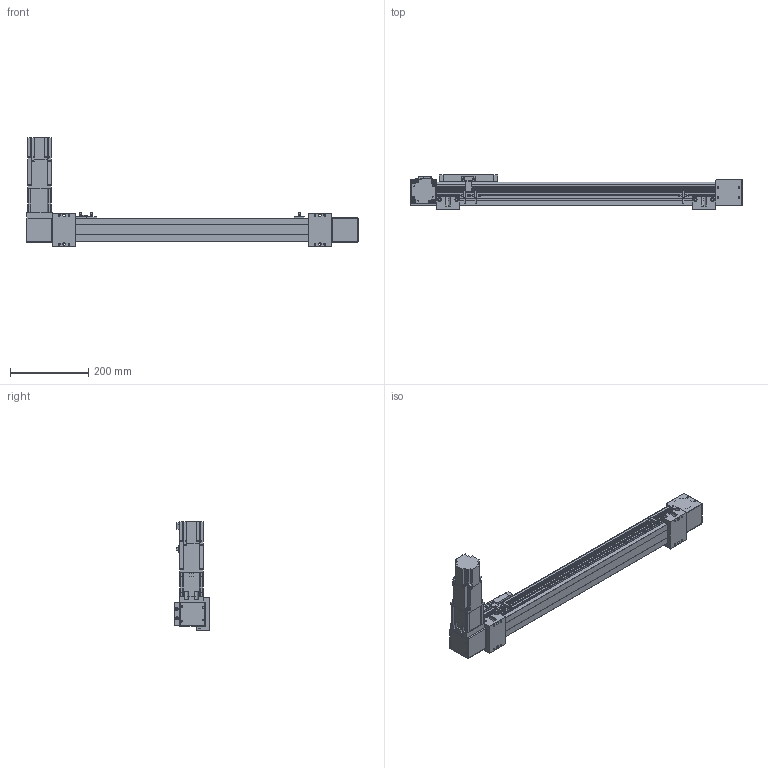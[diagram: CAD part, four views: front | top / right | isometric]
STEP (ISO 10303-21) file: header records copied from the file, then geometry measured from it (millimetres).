
FILE_DESCRIPTION(/* description */ ('STEP AP203'),/* implementation_level */ '2;1');
FILE_NAME(/* name */ 'SK60-P13-S550-BL-T40-C1-N(0)',/* time_stamp */ '2023-04-06T03:35:53+02:00',/* author */ ('License CC BY-ND 4.0'),/* organization */ ('CADENAS'),/* preprocessor_version */ 'ST-DEVELOPER v19.3',/* originating_system */ 'PARTsolutions',/* authorisation */ ' ');
FILE_SCHEMA (('CONFIG_CONTROL_DESIGN'));
Length unit declared in the file: millimetre
Products named in the file (11): SK60-P13-S550-BL-T40-C1-N(0); PSC140-sensor; SK60-S450_seat; SK60-S450-BL-C1_slider; SK60_body3; SK60_body6; SK60-BL_body2; T40-p1; SK60_body5; SK60_body4; SK60-S550-BL-C1_body
Assembly tree (17 placements, depth 2):
  SK60-P13-S550-BL-T40-C1-N(0)
    PSC140-sensor  x3
    SK60-S450_seat  x2
    SK60-S450-BL-C1_slider
    SK60_body3  x3
    SK60_body6  x2
    SK60-BL_body2  x2
    T40-p1
    SK60_body5
    SK60_body4
    SK60-S550-BL-C1_body
Bounding box: 850 x 90 x 278.2 mm (x, y, z)
Volume: 3522089.6 mm3; surface area: 518256.2 mm2
Topology: 17 solids, 21 shells, 834 faces, 2109 edges, 1394 vertices
Faces by surface type: plane 544, cylinder 266, cone 22, torus 2
Full cylindrical faces by diameter (mm): 2.8 x3, 3.3 x4, 4.2 x8, 4.5 x26, 4.6 x3, 4.917 x16, 5 x2, 5.478 x4, 5.5 x19, 6.5 x4, 8 x4, 8.5 x4, 9.988 x4, 10 x8, 13.556 x1, 14 x1, 14.586 x1, 19.692 x1, 38.432 x2, 43 x1, 44 x3, 47 x2, 50 x2
Entity records: 19371 total; most frequent: DIRECTION 3292, CARTESIAN_POINT 3289, ORIENTED_EDGE 3050, EDGE_CURVE 1525, AXIS2_PLACEMENT_3D 1100, LINE 1092, VECTOR 1092, VERTEX_POINT 1077
